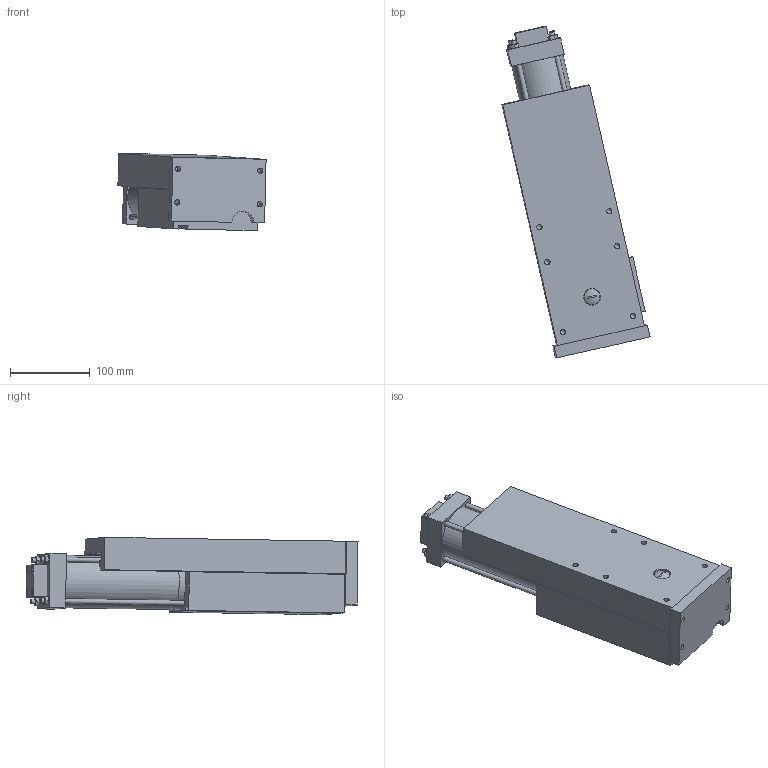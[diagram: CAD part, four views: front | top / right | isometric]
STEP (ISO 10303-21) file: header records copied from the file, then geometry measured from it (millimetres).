
FILE_DESCRIPTION((''),'2;1');
FILE_NAME('C:\VaultWork\Zeichnungen\Maßblätter\H60\VE01523-3-0 Maßblatt Vorschubschlitten H60-110 U.stp','2010-06-23T09:55:03',('Test'),(''),'Autodesk Inventor 2008','Autodesk Inventor 2008','');
FILE_SCHEMA(('AUTOMOTIVE_DESIGN { 1 0 10303 214 1 1 1 1 }'));
Length unit declared in the file: millimetre
Products named in the file (1): VE01523-3-0 Maßblatt Vorschubschlitten H60-110 U
Bounding box: 186.05 x 416.85 x 97.04 mm (x, y, z)
Volume: 3075385.7 mm3; surface area: 295418.1 mm2
Topology: 1 solids, 1 shells, 220 faces, 561 edges, 362 vertices
Faces by surface type: plane 132, bspline 49, cylinder 18, cone 16, torus 4, sphere 1
Full cylindrical faces by diameter (mm): 6 x8, 8.5 x4, 15 x1, 17 x1, 20 x1, 66 x2
Entity records: 6805 total; most frequent: CARTESIAN_POINT 2024, ORIENTED_EDGE 888, DIRECTION 840, EDGE_CURVE 444, EDGE_LOOP 338, VERTEX_POINT 326, AXIS2_PLACEMENT_3D 296, VECTOR 248
